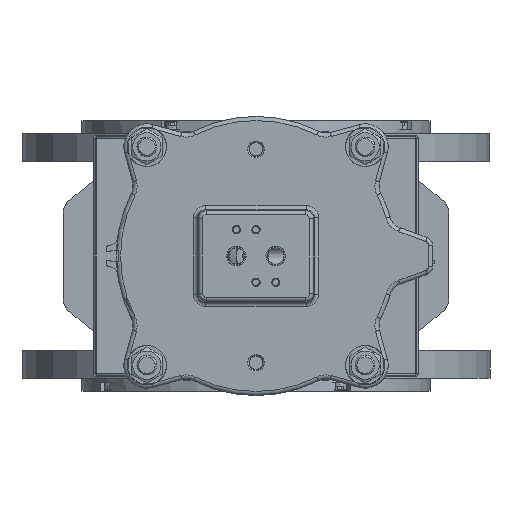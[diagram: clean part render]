
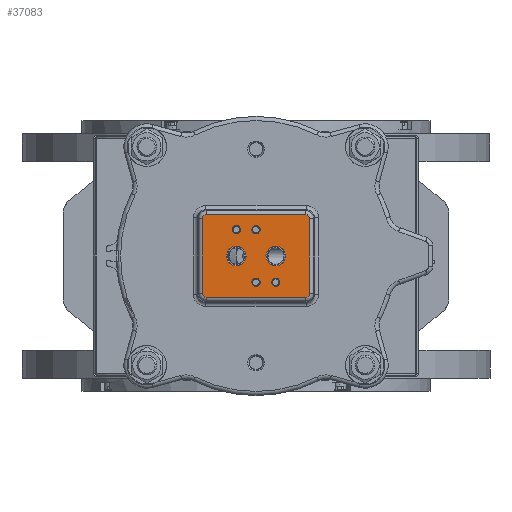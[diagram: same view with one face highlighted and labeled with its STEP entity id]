
A CAD part, left-side view. The second image highlights one B-rep face of the part: STEP entity #37083.
In plain terms, the highlighted planar face has unit normal (-1, 0, 0).
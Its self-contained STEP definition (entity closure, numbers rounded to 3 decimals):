
#948=ELLIPSE('',#39718,2.519,2.5);
#949=ELLIPSE('',#39722,2.519,2.5);
#950=ELLIPSE('',#39726,2.519,2.5);
#951=ELLIPSE('',#39729,2.519,2.5);
#2527=FACE_BOUND('',#10403,.T.);
#2528=FACE_BOUND('',#10404,.T.);
#2529=FACE_BOUND('',#10405,.T.);
#2530=FACE_BOUND('',#10406,.T.);
#2531=FACE_BOUND('',#10407,.T.);
#2532=FACE_BOUND('',#10408,.T.);
#3082=LINE('',#57365,#5142);
#3083=LINE('',#57398,#5143);
#3084=LINE('',#57430,#5144);
#3085=LINE('',#57462,#5145);
#5142=VECTOR('',#45451,10.);
#5143=VECTOR('',#45462,10.);
#5144=VECTOR('',#45471,10.);
#5145=VECTOR('',#45480,10.);
#7007=PLANE('',#39791);
#8069=FACE_OUTER_BOUND('',#10402,.T.);
#10402=EDGE_LOOP('',(#26175,#26176,#26177,#26178,#26179,#26180,#26181,#26182));
#10403=EDGE_LOOP('',(#26183));
#10404=EDGE_LOOP('',(#26184));
#10405=EDGE_LOOP('',(#26185));
#10406=EDGE_LOOP('',(#26186));
#10407=EDGE_LOOP('',(#26187));
#10408=EDGE_LOOP('',(#26188));
#13034=CIRCLE('',#39752,6.);
#13037=CIRCLE('',#39756,6.);
#13048=CIRCLE('',#39775,2.5);
#13052=CIRCLE('',#39781,2.5);
#13056=CIRCLE('',#39787,2.5);
#13059=CIRCLE('',#39792,2.5);
#15697=VERTEX_POINT('',#57362);
#15698=VERTEX_POINT('',#57364);
#15699=VERTEX_POINT('',#57392);
#15700=VERTEX_POINT('',#57396);
#15701=VERTEX_POINT('',#57424);
#15702=VERTEX_POINT('',#57428);
#15703=VERTEX_POINT('',#57456);
#15704=VERTEX_POINT('',#57460);
#15726=VERTEX_POINT('',#57561);
#15729=VERTEX_POINT('',#57569);
#15740=VERTEX_POINT('',#57603);
#15744=VERTEX_POINT('',#57615);
#15748=VERTEX_POINT('',#57627);
#15750=VERTEX_POINT('',#57636);
#19657=EDGE_CURVE('',#15697,#15698,#3082,.T.);
#19660=EDGE_CURVE('',#15699,#15697,#948,.T.);
#19662=EDGE_CURVE('',#15700,#15699,#3083,.T.);
#19664=EDGE_CURVE('',#15701,#15700,#949,.T.);
#19666=EDGE_CURVE('',#15702,#15701,#3084,.T.);
#19668=EDGE_CURVE('',#15703,#15702,#950,.T.);
#19670=EDGE_CURVE('',#15704,#15703,#3085,.T.);
#19671=EDGE_CURVE('',#15698,#15704,#951,.T.);
#19696=EDGE_CURVE('',#15726,#15726,#13034,.T.);
#19700=EDGE_CURVE('',#15729,#15729,#13037,.T.);
#19715=EDGE_CURVE('',#15740,#15740,#13048,.T.);
#19721=EDGE_CURVE('',#15744,#15744,#13052,.T.);
#19727=EDGE_CURVE('',#15748,#15748,#13056,.T.);
#19731=EDGE_CURVE('',#15750,#15750,#13059,.T.);
#26175=ORIENTED_EDGE('',*,*,#19671,.F.);
#26176=ORIENTED_EDGE('',*,*,#19657,.F.);
#26177=ORIENTED_EDGE('',*,*,#19660,.F.);
#26178=ORIENTED_EDGE('',*,*,#19662,.F.);
#26179=ORIENTED_EDGE('',*,*,#19664,.F.);
#26180=ORIENTED_EDGE('',*,*,#19666,.F.);
#26181=ORIENTED_EDGE('',*,*,#19668,.F.);
#26182=ORIENTED_EDGE('',*,*,#19670,.F.);
#26183=ORIENTED_EDGE('',*,*,#19727,.F.);
#26184=ORIENTED_EDGE('',*,*,#19715,.F.);
#26185=ORIENTED_EDGE('',*,*,#19696,.F.);
#26186=ORIENTED_EDGE('',*,*,#19700,.F.);
#26187=ORIENTED_EDGE('',*,*,#19721,.F.);
#26188=ORIENTED_EDGE('',*,*,#19731,.F.);
#37083=ADVANCED_FACE('',(#8069,#2527,#2528,#2529,#2530,#2531,#2532),#7007,
 .F.);
#39718=AXIS2_PLACEMENT_3D('',#57394,#45456,#45457);
#39722=AXIS2_PLACEMENT_3D('',#57426,#45465,#45466);
#39726=AXIS2_PLACEMENT_3D('',#57458,#45474,#45475);
#39729=AXIS2_PLACEMENT_3D('',#57488,#45481,#45482);
#39752=AXIS2_PLACEMENT_3D('',#57563,#45533,#45534);
#39756=AXIS2_PLACEMENT_3D('',#57571,#45542,#45543);
#39775=AXIS2_PLACEMENT_3D('',#57605,#45584,#45585);
#39781=AXIS2_PLACEMENT_3D('',#57617,#45598,#45599);
#39787=AXIS2_PLACEMENT_3D('',#57629,#45612,#45613);
#39791=AXIS2_PLACEMENT_3D('',#57635,#45621,#45622);
#39792=AXIS2_PLACEMENT_3D('',#57637,#45623,#45624);
#45451=DIRECTION('',(0.,0.,-1.));
#45456=DIRECTION('center_axis',(1.,0.,0.));
#45457=DIRECTION('ref_axis',(0.,-0.707,0.707));
#45462=DIRECTION('',(0.,-1.,0.));
#45465=DIRECTION('center_axis',(1.,0.,0.));
#45466=DIRECTION('ref_axis',(0.,0.707,0.707));
#45471=DIRECTION('',(0.,0.,1.));
#45474=DIRECTION('center_axis',(1.,0.,0.));
#45475=DIRECTION('ref_axis',(0.,0.707,-0.707));
#45480=DIRECTION('',(0.,1.,0.));
#45481=DIRECTION('center_axis',(1.,0.,0.));
#45482=DIRECTION('ref_axis',(0.,-0.707,-0.707));
#45533=DIRECTION('center_axis',(-1.,0.,0.));
#45534=DIRECTION('ref_axis',(0.,1.,0.));
#45542=DIRECTION('center_axis',(-1.,0.,0.));
#45543=DIRECTION('ref_axis',(0.,1.,0.));
#45584=DIRECTION('center_axis',(-1.,0.,0.));
#45585=DIRECTION('ref_axis',(0.,1.,0.));
#45598=DIRECTION('center_axis',(-1.,0.,0.));
#45599=DIRECTION('ref_axis',(0.,1.,0.));
#45612=DIRECTION('center_axis',(-1.,0.,0.));
#45613=DIRECTION('ref_axis',(0.,1.,0.));
#45621=DIRECTION('center_axis',(1.,0.,0.));
#45622=DIRECTION('ref_axis',(0.,1.,0.));
#45623=DIRECTION('center_axis',(-1.,0.,0.));
#45624=DIRECTION('ref_axis',(0.,1.,0.));
#57362=CARTESIAN_POINT('',(-990.5,-32.709,22.719));
#57364=CARTESIAN_POINT('',(-990.5,-32.709,-22.719));
#57365=CARTESIAN_POINT('',(-990.5,-32.709,-13.75));
#57392=CARTESIAN_POINT('',(-990.5,-30.219,25.209));
#57394=CARTESIAN_POINT('Origin',(-990.5,-30.2,22.7));
#57396=CARTESIAN_POINT('',(-990.5,30.219,25.209));
#57398=CARTESIAN_POINT('',(-990.5,-17.5,25.209));
#57424=CARTESIAN_POINT('',(-990.5,32.709,22.719));
#57426=CARTESIAN_POINT('Origin',(-990.5,30.2,22.7));
#57428=CARTESIAN_POINT('',(-990.5,32.709,-22.719));
#57430=CARTESIAN_POINT('',(-990.5,32.709,13.75));
#57456=CARTESIAN_POINT('',(-990.5,30.219,-25.209));
#57458=CARTESIAN_POINT('Origin',(-990.5,30.2,-22.7));
#57460=CARTESIAN_POINT('',(-990.5,-30.219,-25.209));
#57462=CARTESIAN_POINT('',(-990.5,17.5,-25.209));
#57488=CARTESIAN_POINT('Origin',(-990.5,-30.2,-22.7));
#57561=CARTESIAN_POINT('',(-990.5,-18.,0.));
#57563=CARTESIAN_POINT('Origin',(-990.5,-12.,0.));
#57569=CARTESIAN_POINT('',(-990.5,6.,0.));
#57571=CARTESIAN_POINT('Origin',(-990.5,12.,0.));
#57603=CARTESIAN_POINT('',(-990.5,-14.5,-16.));
#57605=CARTESIAN_POINT('Origin',(-990.5,-12.,-16.));
#57615=CARTESIAN_POINT('',(-990.5,-2.5,-16.));
#57617=CARTESIAN_POINT('Origin',(-990.5,0.,
-16.));
#57627=CARTESIAN_POINT('',(-990.5,-2.5,16.));
#57629=CARTESIAN_POINT('Origin',(-990.5,0.,
16.));
#57635=CARTESIAN_POINT('Origin',(-990.5,0.,
0.));
#57636=CARTESIAN_POINT('',(-990.5,9.5,16.));
#57637=CARTESIAN_POINT('Origin',(-990.5,12.,16.));
